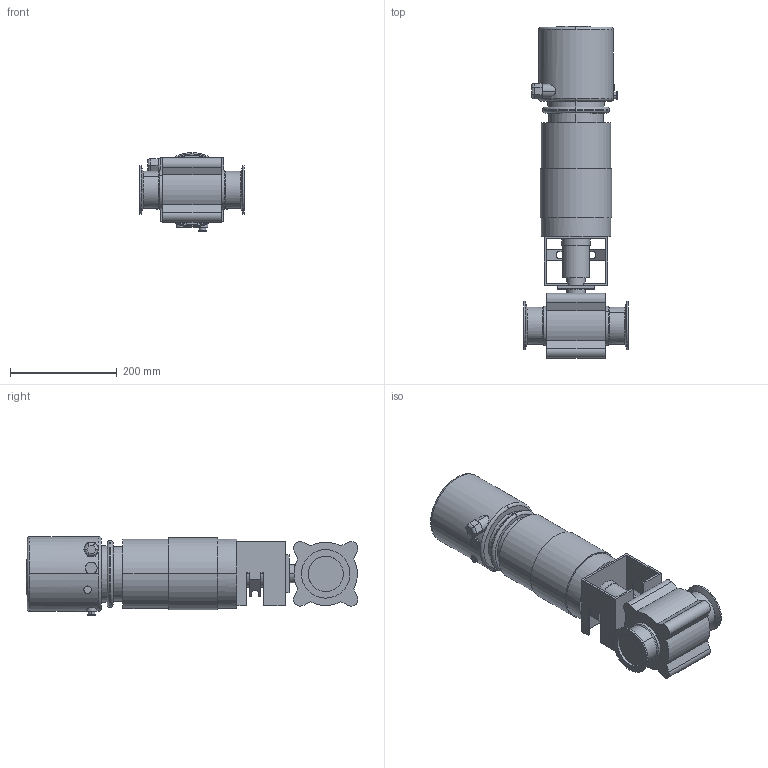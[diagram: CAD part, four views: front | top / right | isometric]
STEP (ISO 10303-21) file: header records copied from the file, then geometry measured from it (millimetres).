
FILE_DESCRIPTION(('Creo Elements/Direct Modeling STEP Export'),'2;1');
FILE_NAME('BLV1-65-NC-12CL-CU4.stp','2019-05-09T14:25:14',(''),(''),'Creo Elements/Direct Modeling STEP processor for AP214 (Solid Model)','Creo Elements/Direct Modeling 19.0F 14-Feb-2017 (C) Parametric Technology GmbH','');
FILE_SCHEMA(('AUTOMOTIVE_DESIGN { 1 0 10303 214 1 1 1 1 }'));
Length unit declared in the file: millimetre
Products named in the file (2): BLV1-65-NC-12CL-CU4
Assembly tree (1 placements, depth 2):
  BLV1-65-NC-12CL-CU4
    BLV1-65-NC-12CL-CU4
Bounding box: 197 x 622.84 x 148 mm (x, y, z)
Volume: 7629525.9 mm3; surface area: 412528.5 mm2
Topology: 1 solids, 2 shells, 265 faces, 685 edges, 448 vertices
Faces by surface type: plane 116, cylinder 98, extrusion 33, torus 10, cone 8
Entity records: 11181 total; most frequent: CARTESIAN_POINT 5200, ORIENTED_EDGE 1372, DIRECTION 1036, EDGE_CURVE 686, VERTEX_POINT 448, VECTOR 356, AXIS2_PLACEMENT_3D 340, LINE 323
